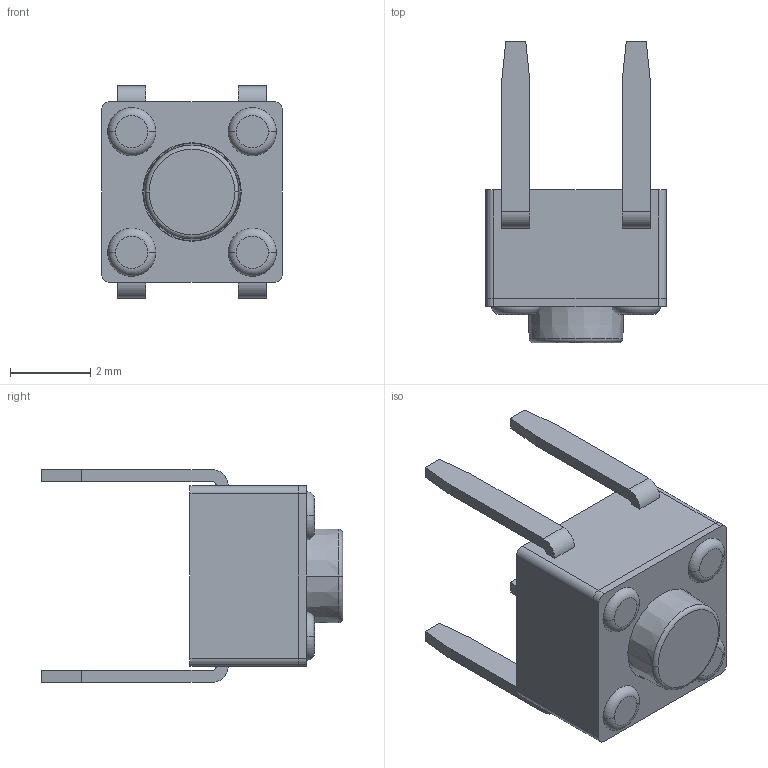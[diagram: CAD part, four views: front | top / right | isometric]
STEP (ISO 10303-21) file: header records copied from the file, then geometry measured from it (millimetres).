
FILE_DESCRIPTION((''),'2;1');
FILE_NAME('JQB4545-C0381-01G_ASM','2026-04-22T11:55:42',('Admin'),(''),'CREO PARAMETRIC BY PTC INC, 2019224','CREO PARAMETRIC BY PTC INC, 2019224','');
FILE_SCHEMA(('AUTOMOTIVE_DESIGN { 1 0 10303 214 1 1 1 1 }'));
Length unit declared in the file: millimetre
Products named in the file (3): JQB4545-C0381-01G_02; JQB4545-C0381-01G_01; JQB4545-C0381-01G_ASM
Assembly tree (2 placements, depth 2):
  JQB4545-C0381-01G_ASM
    JQB4545-C0381-01G_02
    JQB4545-C0381-01G_01
Bounding box: 4.5 x 7.5 x 5.3 mm (x, y, z)
Volume: 67 mm3; surface area: 175.2 mm2
Topology: 2 solids, 2 shells, 95 faces, 242 edges, 174 vertices
Faces by surface type: plane 49, cylinder 34, torus 10, cone 2
Entity records: 4070 total; most frequent: DIRECTION 554, CARTESIAN_POINT 509, ORIENTED_EDGE 464, EDGE_CURVE 232, PRESENTATION_STYLE_ASSIGNMENT 224, AXIS2_PLACEMENT_3D 206, STYLED_ITEM 192, CURVE_STYLE 191
